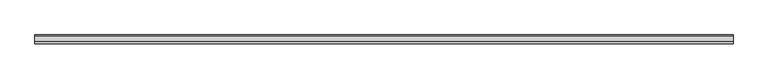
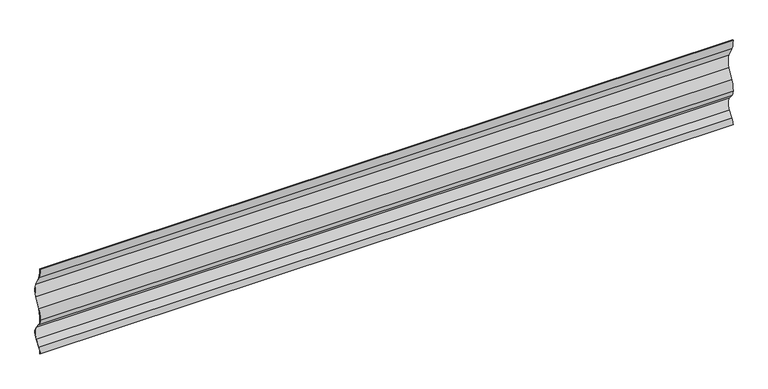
"""IFC4 building model written with IfcOpenShell, lengths in millimetres: plate geometry, Ritmica Horizontal 368 : Ritmica Horizontal 368."""

from ifc_helpers import new_model, si_unit, point, frame, frame_2d, origin, place, context, project, spatial, polyline, circle_curve, trimmed, segment, composite_curve, outline, extrude, source, transform, mapped, element, save


def plate_aad33c17(model_context):
    return source(origin(), model_context, "Body", "SweptSolid", [
        extrude(outline(composite_curve([segment(polyline([(10.0476548, 324.2892209), (30.4443215, 283.7581494)]), True, "CONTINUOUS"), segment(trimmed(circle_curve(frame_2d((-23.1517705, 256.7867029)), 60.0), [point((30.4443215, 283.7581494))], [point((30.4639414, 229.8542794))], False, "CARTESIAN"), True, "CONTINUOUS"), segment(polyline([(30.4639414, 229.8542794), (10.0967851, 189.3083707)]), True, "CONTINUOUS"), segment(trimmed(circle_curve(frame_2d((94.180885, 148.8915653)), 93.293376), [point((10.0967851, 189.3083707))], [point((0.9471304, 145.5567461))], True, "CARTESIAN"), True, "CONTINUOUS"), segment(trimmed(circle_curve(frame_2d((38.0785482, 145.5702612)), 37.1314203), [point((0.9471304, 145.5567461))], [point((9.5589915, 121.7925982))], True, "CARTESIAN"), True, "CONTINUOUS"), segment(polyline([(9.5589915, 121.7925982), (28.2547827, 99.3683726)]), True, "CONTINUOUS"), segment(trimmed(circle_curve(frame_2d((-7.0897704, 72.9267773)), 44.1406321), [point((28.2547827, 99.3683726))], [point((28.2740218, 46.5109184))], False, "CARTESIAN"), True, "CONTINUOUS"), segment(polyline([(28.2740218, 46.5109184), (9.5945594, 23.7707747)]), True, "CONTINUOUS"), segment(trimmed(circle_curve(frame_2d((38.1314178, 0.0138791)), 37.1314203), [point((9.5945594, 23.7707747))], [point((1.0000001, 0.0))], True, "CARTESIAN"), True, "CONTINUOUS"), segment(polyline([(1.0000001, 0.0), (0.0, 0.0)]), True, "CONTINUOUS"), segment(trimmed(circle_curve(frame_2d((38.1314178, 0.0138791)), 38.1314203), [point((0.0, 0.0))], [point((8.8260227, 24.4105804))], False, "CARTESIAN"), True, "CONTINUOUS"), segment(polyline([(8.8260227, 24.4105804), (27.488531, 47.1303588)]), True, "CONTINUOUS"), segment(trimmed(circle_curve(frame_2d((-7.0897704, 72.9267773)), 43.1406321), [point((27.488531, 47.1303588))], [point((27.4697431, 98.7483605))], True, "CARTESIAN"), True, "CONTINUOUS"), segment(polyline([(27.4697431, 98.7483605), (8.7909208, 121.1522332)]), True, "CONTINUOUS"), segment(trimmed(circle_curve(frame_2d((38.0785482, 145.5702612)), 38.1314203), [point((8.7909208, 121.1522332))], [point((-0.0528589, 145.5386154))], False, "CARTESIAN"), True, "CONTINUOUS"), segment(trimmed(circle_curve(frame_2d((94.180885, 148.8915653)), 94.293376), [point((-0.0528589, 145.5386154))], [point((9.1992862, 189.7494732))], False, "CARTESIAN"), True, "CONTINUOUS"), segment(polyline([(9.1992862, 189.7494732), (29.5703462, 230.3031531)]), True, "CONTINUOUS"), segment(trimmed(circle_curve(frame_2d((-23.1517705, 256.7867029)), 59.0), [point((29.5703462, 230.3031531))], [point((29.5510533, 283.3086253))], True, "CARTESIAN"), True, "CONTINUOUS"), segment(polyline([(29.5510533, 283.3086253), (9.1504773, 323.8474651)]), True, "CONTINUOUS"), segment(trimmed(circle_curve(frame_2d((94.1023106, 364.7672254)), 94.293376), [point((9.1504773, 323.8474651))], [point((-0.1338492, 368.0515751))], False, "CARTESIAN"), True, "CONTINUOUS"), segment(polyline([(-0.1338492, 368.0515751), (0.8667645, 368.0515751)]), True, "CONTINUOUS"), segment(trimmed(circle_curve(frame_2d((94.1023106, 364.7672254)), 93.293376), [point((0.8667645, 368.0515751))], [point((10.0476548, 324.2892209))], True, "CARTESIAN"), True, "CONTINUOUS")], self_intersect=False)), frame((-1422.0, 0.0, 0.0), z_axis=(1.0, 0.0, 0.0), x_axis=(0.0, 1.0, 0.0)), (0.0, 0.0, 1.0), 2844.0),
    ])


if __name__ == "__main__":
    model = new_model("IFC4")
    model_context = context("Model", 3, world=origin())
    ifc_project = project(units=[si_unit("LENGTHUNIT", "METRE", prefix="MILLI")], contexts=[model_context])
    site = spatial("IfcSite", under=ifc_project)
    building = spatial("IfcBuilding", under=site)
    placement = place(None, origin())
    plate_shape = plate_aad33c17(model_context)
    element("IfcPlate", 1, ObjectType="Ritmica Horizontal 368 : Ritmica Horizontal 368", at=placement, inside=building, context=model_context, shape_type="MappedRepresentation", body=[
        mapped(plate_shape, transform((0.0, 0.0, 0.0), x_axis=(1.0, 0.0, 0.0), y_axis=(0.0, 1.0, 0.0), z_axis=(0.0, 0.0, 1.0))),
    ])
    save(model, "model.ifc")
